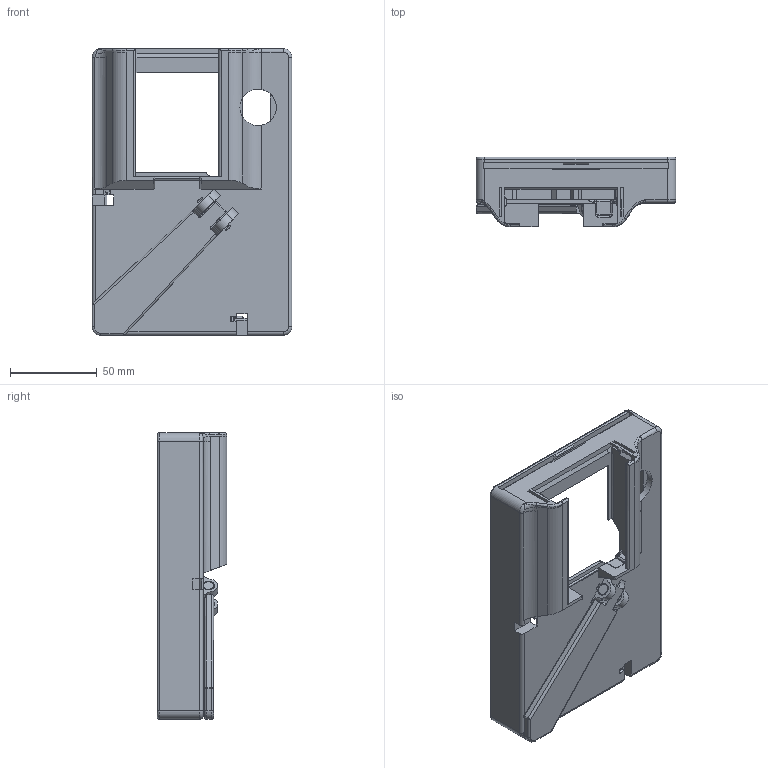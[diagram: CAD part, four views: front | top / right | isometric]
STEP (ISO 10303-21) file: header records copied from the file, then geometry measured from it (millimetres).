
FILE_DESCRIPTION((''),'2;1');
FILE_NAME('AA2X3V2','2025-02-14T18:20:29',('qinghui.yi'),(''),'CREO PARAMETRIC BY PTC INC, 2019164','CREO PARAMETRIC BY PTC INC, 2019164','');
FILE_SCHEMA(('CONFIG_CONTROL_DESIGN','SHAPE_APPEARANCE_LAYERS_GROUPS'));
Length unit declared in the file: millimetre
Products named in the file (1): AA2X3V2
Bounding box: 115 x 40 x 165 mm (x, y, z)
Volume: 163718.8 mm3; surface area: 75502.6 mm2
Topology: 2 solids, 5 shells, 460 faces, 1291 edges, 819 vertices
Faces by surface type: plane 283, cylinder 131, bspline 22, torus 15, cone 7, sphere 2
Entity records: 17375 total; most frequent: CARTESIAN_POINT 5335, ORIENTED_EDGE 2576, DIRECTION 2270, EDGE_CURVE 1288, VECTOR 900, LINE 900, VERTEX_POINT 819, AXIS2_PLACEMENT_3D 685
